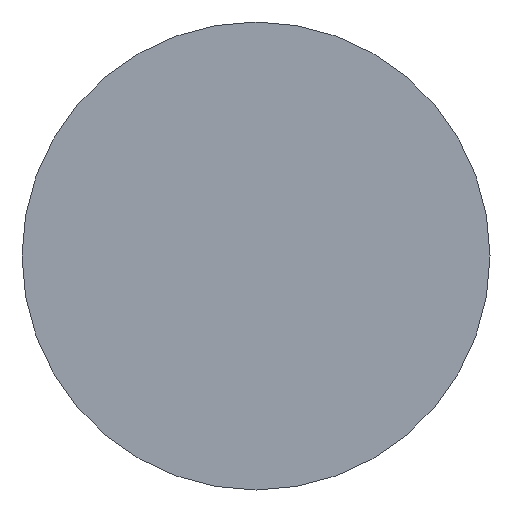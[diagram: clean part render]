
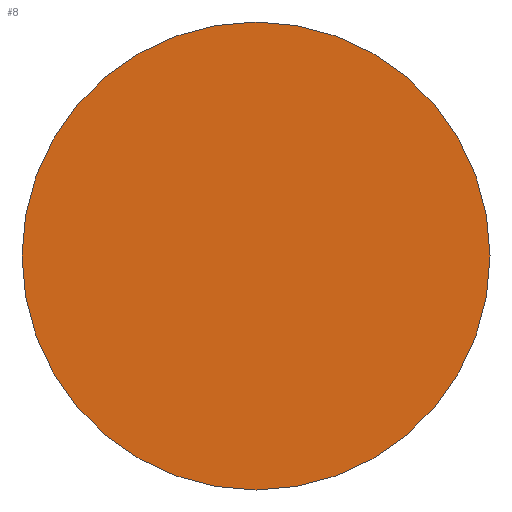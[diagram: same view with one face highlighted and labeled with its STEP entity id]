
A CAD part, front view. The second image highlights one B-rep face of the part: STEP entity #8.
In plain terms, the highlighted planar face has unit normal (0, -1, 0).
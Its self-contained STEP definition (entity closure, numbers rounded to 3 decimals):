
#8 = ADVANCED_FACE ( 'NONE', ( #66 ), #168, .F. ) ;
#15 = ORIENTED_EDGE ( 'NONE', *, *, #198, .F. ) ;
#24 = CARTESIAN_POINT ( 'NONE',  ( 0., 0., 0. ) ) ;
#37 = AXIS2_PLACEMENT_3D ( 'NONE', #24, #56, #144 ) ;
#39 = EDGE_LOOP ( 'NONE', ( #15, #112 ) ) ;
#43 = AXIS2_PLACEMENT_3D ( 'NONE', #125, #71, #74 ) ;
#44 = AXIS2_PLACEMENT_3D ( 'NONE', #45, #115, #108 ) ;
#45 = CARTESIAN_POINT ( 'NONE',  ( 0., 0., 0. ) ) ;
#46 = CARTESIAN_POINT ( 'NONE',  ( 0., 0., 2.5 ) ) ;
#56 = DIRECTION ( 'NONE',  ( 0., 1., 0. ) ) ;
#66 = FACE_OUTER_BOUND ( 'NONE', #39, .T. ) ;
#67 = CIRCLE ( 'NONE', #37, 2.5 ) ;
#71 = DIRECTION ( 'NONE',  ( 0., 1., 0. ) ) ;
#74 = DIRECTION ( 'NONE',  ( 0., 0., 1. ) ) ;
#108 = DIRECTION ( 'NONE',  ( 0., 0., 1. ) ) ;
#112 = ORIENTED_EDGE ( 'NONE', *, *, #136, .F. ) ;
#115 = DIRECTION ( 'NONE',  ( 0., 1., 0. ) ) ;
#118 = VERTEX_POINT ( 'NONE', #46 ) ;
#125 = CARTESIAN_POINT ( 'NONE',  ( 0., 0., 0. ) ) ;
#136 = EDGE_CURVE ( 'NONE', #118, #156, #197, .T. ) ;
#144 = DIRECTION ( 'NONE',  ( 0., 0., 1. ) ) ;
#156 = VERTEX_POINT ( 'NONE', #200 ) ;
#168 = PLANE ( 'NONE',  #43 ) ;
#197 = CIRCLE ( 'NONE', #44, 2.5 ) ;
#198 = EDGE_CURVE ( 'NONE', #156, #118, #67, .T. ) ;
#200 = CARTESIAN_POINT ( 'NONE',  ( 0., 0., -2.5 ) ) ;
